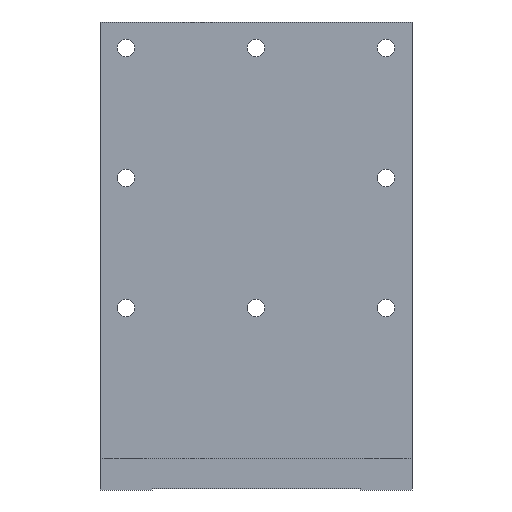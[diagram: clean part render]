
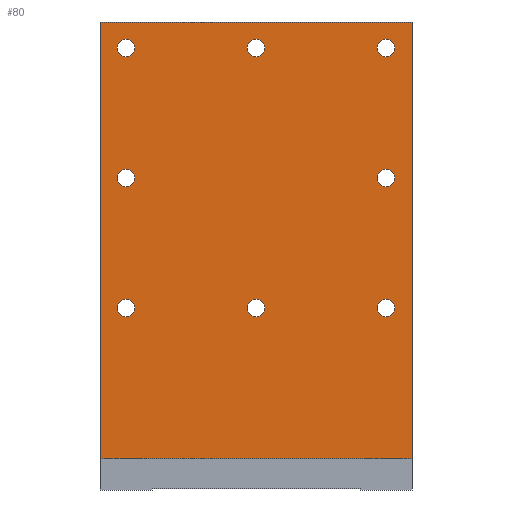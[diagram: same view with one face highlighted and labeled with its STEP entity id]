
A CAD part, front view. The second image highlights one B-rep face of the part: STEP entity #80.
In plain terms, the highlighted planar face has unit normal (0, -1, 0).
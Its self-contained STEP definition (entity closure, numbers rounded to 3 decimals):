
#80 = ADVANCED_FACE( '', ( #131, #132, #133, #134, #135, #136, #137, #138, #139 ), #140, .T. );
#131 = FACE_BOUND( '', #271, .T. );
#132 = FACE_BOUND( '', #272, .T. );
#133 = FACE_BOUND( '', #273, .T. );
#134 = FACE_BOUND( '', #274, .T. );
#135 = FACE_BOUND( '', #275, .T. );
#136 = FACE_BOUND( '', #276, .T. );
#137 = FACE_BOUND( '', #277, .T. );
#138 = FACE_BOUND( '', #278, .T. );
#139 = FACE_OUTER_BOUND( '', #279, .T. );
#140 = PLANE( '', #280 );
#271 = EDGE_LOOP( '', ( #439 ) );
#272 = EDGE_LOOP( '', ( #440 ) );
#273 = EDGE_LOOP( '', ( #441 ) );
#274 = EDGE_LOOP( '', ( #442 ) );
#275 = EDGE_LOOP( '', ( #443 ) );
#276 = EDGE_LOOP( '', ( #444 ) );
#277 = EDGE_LOOP( '', ( #445 ) );
#278 = EDGE_LOOP( '', ( #446 ) );
#279 = EDGE_LOOP( '', ( #447, #448, #449, #450 ) );
#280 = AXIS2_PLACEMENT_3D( '', #451, #452, #453 );
#439 = ORIENTED_EDGE( '', *, *, #774, .F. );
#440 = ORIENTED_EDGE( '', *, *, #776, .F. );
#441 = ORIENTED_EDGE( '', *, *, #777, .F. );
#442 = ORIENTED_EDGE( '', *, *, #778, .F. );
#443 = ORIENTED_EDGE( '', *, *, #779, .F. );
#444 = ORIENTED_EDGE( '', *, *, #780, .F. );
#445 = ORIENTED_EDGE( '', *, *, #781, .F. );
#446 = ORIENTED_EDGE( '', *, *, #782, .F. );
#447 = ORIENTED_EDGE( '', *, *, #771, .F. );
#448 = ORIENTED_EDGE( '', *, *, #783, .F. );
#449 = ORIENTED_EDGE( '', *, *, #784, .F. );
#450 = ORIENTED_EDGE( '', *, *, #785, .F. );
#451 = CARTESIAN_POINT( '', ( 0., 4., 48. ) );
#452 = DIRECTION( '', ( 0., -1., 0. ) );
#453 = DIRECTION( '', ( 0., 0., 1. ) );
#771 = EDGE_CURVE( '', #921, #924, #925, .T. );
#774 = EDGE_CURVE( '', #929, #929, #930, .T. );
#776 = EDGE_CURVE( '', #933, #933, #934, .T. );
#777 = EDGE_CURVE( '', #935, #935, #936, .T. );
#778 = EDGE_CURVE( '', #937, #937, #938, .T. );
#779 = EDGE_CURVE( '', #939, #939, #940, .T. );
#780 = EDGE_CURVE( '', #941, #941, #942, .T. );
#781 = EDGE_CURVE( '', #943, #943, #944, .T. );
#782 = EDGE_CURVE( '', #945, #945, #946, .T. );
#783 = EDGE_CURVE( '', #947, #921, #948, .T. );
#784 = EDGE_CURVE( '', #949, #947, #950, .T. );
#785 = EDGE_CURVE( '', #924, #949, #951, .T. );
#921 = VERTEX_POINT( '', #1097 );
#924 = VERTEX_POINT( '', #1101 );
#925 = LINE( '', #1102, #1103 );
#929 = VERTEX_POINT( '', #1109 );
#930 = CIRCLE( '', #1110, 1.65 );
#933 = VERTEX_POINT( '', #1113 );
#934 = CIRCLE( '', #1114, 1.65 );
#935 = VERTEX_POINT( '', #1115 );
#936 = CIRCLE( '', #1116, 1.65 );
#937 = VERTEX_POINT( '', #1117 );
#938 = CIRCLE( '', #1118, 1.65 );
#939 = VERTEX_POINT( '', #1119 );
#940 = CIRCLE( '', #1120, 1.65 );
#941 = VERTEX_POINT( '', #1121 );
#942 = CIRCLE( '', #1122, 1.65 );
#943 = VERTEX_POINT( '', #1123 );
#944 = CIRCLE( '', #1124, 1.65 );
#945 = VERTEX_POINT( '', #1125 );
#946 = CIRCLE( '', #1126, 1.65 );
#947 = VERTEX_POINT( '', #1127 );
#948 = LINE( '', #1128, #1129 );
#949 = VERTEX_POINT( '', #1130 );
#950 = LINE( '', #1131, #1132 );
#951 = LINE( '', #1133, #1134 );
#1097 = CARTESIAN_POINT( '', ( 30., 4., 6. ) );
#1101 = CARTESIAN_POINT( '', ( -30., 4., 6. ) );
#1102 = CARTESIAN_POINT( '', ( 0., 4., 6. ) );
#1103 = VECTOR( '', #1342, 1000. );
#1109 = CARTESIAN_POINT( '', ( 25., 4., 61.65 ) );
#1110 = AXIS2_PLACEMENT_3D( '', #1345, #1346, #1347 );
#1113 = CARTESIAN_POINT( '', ( 25., 4., 86.65 ) );
#1114 = AXIS2_PLACEMENT_3D( '', #1351, #1352, #1353 );
#1115 = CARTESIAN_POINT( '', ( 0., 4., 86.65 ) );
#1116 = AXIS2_PLACEMENT_3D( '', #1354, #1355, #1356 );
#1117 = CARTESIAN_POINT( '', ( -25., 4., 86.65 ) );
#1118 = AXIS2_PLACEMENT_3D( '', #1357, #1358, #1359 );
#1119 = CARTESIAN_POINT( '', ( -25., 4., 61.65 ) );
#1120 = AXIS2_PLACEMENT_3D( '', #1360, #1361, #1362 );
#1121 = CARTESIAN_POINT( '', ( -25., 4., 36.65 ) );
#1122 = AXIS2_PLACEMENT_3D( '', #1363, #1364, #1365 );
#1123 = CARTESIAN_POINT( '', ( 0., 4., 36.65 ) );
#1124 = AXIS2_PLACEMENT_3D( '', #1366, #1367, #1368 );
#1125 = CARTESIAN_POINT( '', ( 25., 4., 36.65 ) );
#1126 = AXIS2_PLACEMENT_3D( '', #1369, #1370, #1371 );
#1127 = CARTESIAN_POINT( '', ( 30., 4., 90. ) );
#1128 = CARTESIAN_POINT( '', ( 30., 4., 48. ) );
#1129 = VECTOR( '', #1372, 1000. );
#1130 = CARTESIAN_POINT( '', ( -30., 4., 90. ) );
#1131 = CARTESIAN_POINT( '', ( 0., 4., 90. ) );
#1132 = VECTOR( '', #1373, 1000. );
#1133 = CARTESIAN_POINT( '', ( -30., 4., 48. ) );
#1134 = VECTOR( '', #1374, 1000. );
#1342 = DIRECTION( '', ( -1., 0., 0. ) );
#1345 = CARTESIAN_POINT( '', ( 25., 4., 60. ) );
#1346 = DIRECTION( '', ( 0., -1., 0. ) );
#1347 = DIRECTION( '', ( 0., 0., 1. ) );
#1351 = CARTESIAN_POINT( '', ( 25., 4., 85. ) );
#1352 = DIRECTION( '', ( 0., -1., 0. ) );
#1353 = DIRECTION( '', ( 0., 0., 1. ) );
#1354 = CARTESIAN_POINT( '', ( 0., 4., 85. ) );
#1355 = DIRECTION( '', ( 0., -1., 0. ) );
#1356 = DIRECTION( '', ( 0., 0., 1. ) );
#1357 = CARTESIAN_POINT( '', ( -25., 4., 85. ) );
#1358 = DIRECTION( '', ( 0., -1., 0. ) );
#1359 = DIRECTION( '', ( 0., 0., 1. ) );
#1360 = CARTESIAN_POINT( '', ( -25., 4., 60. ) );
#1361 = DIRECTION( '', ( 0., -1., 0. ) );
#1362 = DIRECTION( '', ( 0., 0., 1. ) );
#1363 = CARTESIAN_POINT( '', ( -25., 4., 35. ) );
#1364 = DIRECTION( '', ( 0., -1., 0. ) );
#1365 = DIRECTION( '', ( 0., 0., 1. ) );
#1366 = CARTESIAN_POINT( '', ( 0., 4., 35. ) );
#1367 = DIRECTION( '', ( 0., -1., 0. ) );
#1368 = DIRECTION( '', ( 0., 0., 1. ) );
#1369 = CARTESIAN_POINT( '', ( 25., 4., 35. ) );
#1370 = DIRECTION( '', ( 0., -1., 0. ) );
#1371 = DIRECTION( '', ( 0., 0., 1. ) );
#1372 = DIRECTION( '', ( 0., 0., -1. ) );
#1373 = DIRECTION( '', ( 1., 0., 0. ) );
#1374 = DIRECTION( '', ( 0., 0., 1. ) );
